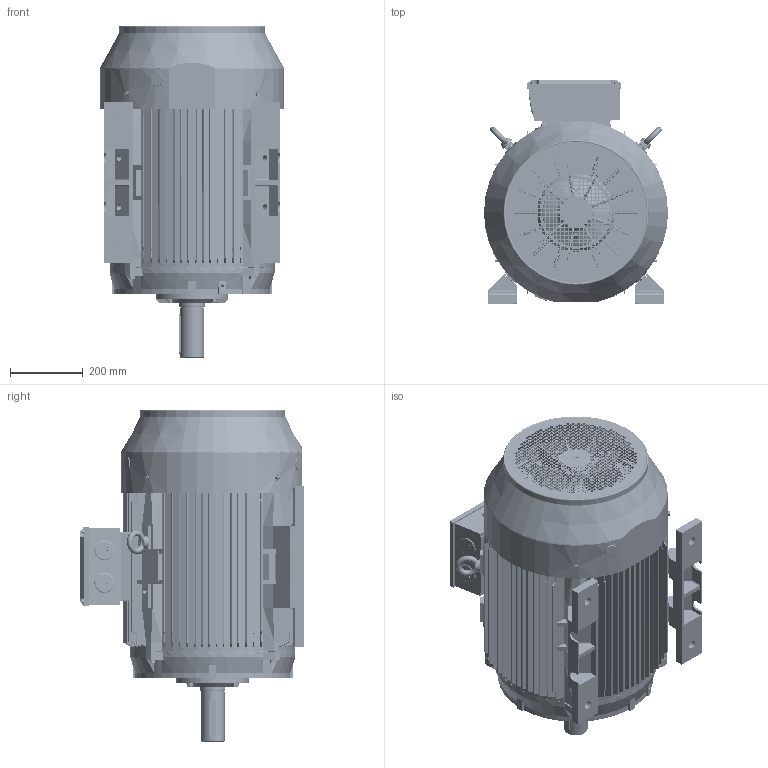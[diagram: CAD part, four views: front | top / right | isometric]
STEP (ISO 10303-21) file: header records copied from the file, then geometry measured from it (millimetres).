
FILE_DESCRIPTION (( 'STEP AP214' ), '1' );
FILE_NAME ('BCT3370.25D603.11.STEP', '2020-04-23T14:53:07', ( '' ), ( '' ), 'SwSTEP 2.0', 'SolidWorks 2019', '' );
FILE_SCHEMA (( 'AUTOMOTIVE_DESIGN' ));
Length unit declared in the file: millimetre
Products named in the file (1): BCT3370.25D603.11
Bounding box: 506.4 x 614.03 x 913.5 mm (x, y, z)
Volume: 26306939.6 mm3; surface area: 5935276.5 mm2
Topology: 48 solids, 49 shells, 9391 faces, 27244 edges, 17906 vertices
Faces by surface type: plane 4584, cylinder 3837, cone 348, bspline 300, torus 198, sphere 124
Entity records: 344848 total; most frequent: CARTESIAN_POINT 92168, ORIENTED_EDGE 54080, DIRECTION 51533, EDGE_CURVE 27040, VERTEX_POINT 17844, AXIS2_PLACEMENT_3D 17691, LINE 16151, VECTOR 16151
